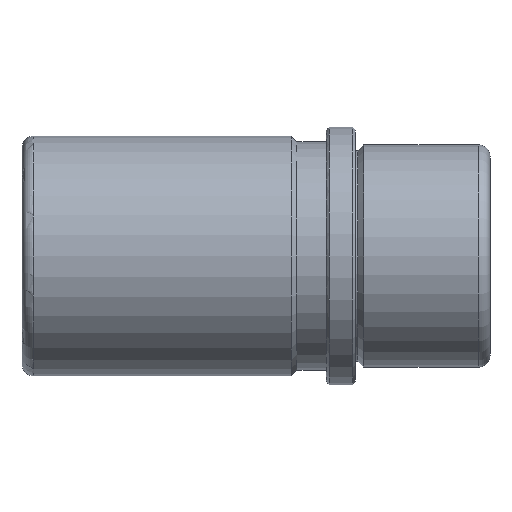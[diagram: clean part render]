
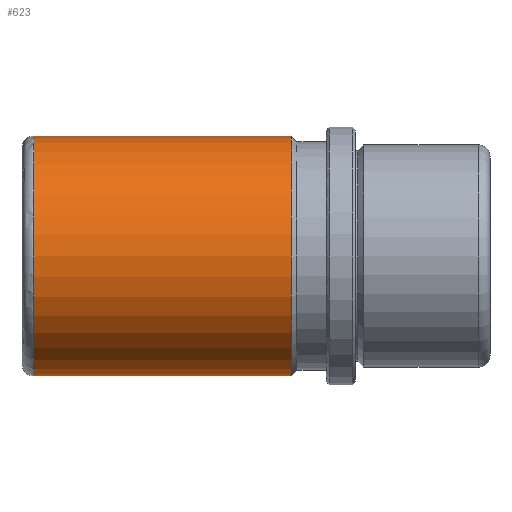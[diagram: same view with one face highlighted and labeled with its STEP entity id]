
A CAD part, front view. The second image highlights one B-rep face of the part: STEP entity #623.
In plain terms, the highlighted cylindrical face has radius 20.5 mm (diameter 41 mm), a partial arc.
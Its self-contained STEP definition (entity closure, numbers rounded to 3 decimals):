
#398=CARTESIAN_POINT('Line Origine',(23.,0.,20.5)) ;
#402=CARTESIAN_POINT('Vertex',(-11.,0.,20.5)) ;
#404=CARTESIAN_POINT('Vertex',(-55.,0.,20.5)) ;
#418=CARTESIAN_POINT('Vertex',(-11.,0.,-20.5)) ;
#421=CARTESIAN_POINT('Line Origine',(23.,0.,-20.5)) ;
#425=CARTESIAN_POINT('Vertex',(-55.,0.,-20.5)) ;
#586=CARTESIAN_POINT('Axis2P3D Location',(23.,0.,0.)) ;
#591=CARTESIAN_POINT('Axis2P3D Location',(-11.,0.,0.)) ;
#595=CARTESIAN_POINT('Vertex',(-11.,-20.5,0.)) ;
#598=CARTESIAN_POINT('Axis2P3D Location',(-11.,0.,0.)) ;
#603=CARTESIAN_POINT('Axis2P3D Location',(-55.,0.,0.)) ;
#607=CARTESIAN_POINT('Vertex',(-55.,-20.5,0.)) ;
#610=CARTESIAN_POINT('Axis2P3D Location',(-55.,0.,0.)) ;
#399=DIRECTION('Vector Direction',(-1.,0.,0.)) ;
#422=DIRECTION('Vector Direction',(-1.,0.,0.)) ;
#587=DIRECTION('Axis2P3D Direction',(-1.,-0.,-0.)) ;
#588=DIRECTION('Axis2P3D XDirection',(0.,0.,-1.)) ;
#592=DIRECTION('Axis2P3D Direction',(-1.,-0.,-0.)) ;
#599=DIRECTION('Axis2P3D Direction',(-1.,-0.,-0.)) ;
#604=DIRECTION('Axis2P3D Direction',(-1.,-0.,-0.)) ;
#611=DIRECTION('Axis2P3D Direction',(-1.,-0.,-0.)) ;
#589=AXIS2_PLACEMENT_3D('Cylinder Axis2P3D',#586,#587,#588) ;
#593=AXIS2_PLACEMENT_3D('Circle Axis2P3D',#591,#592,$) ;
#600=AXIS2_PLACEMENT_3D('Circle Axis2P3D',#598,#599,$) ;
#605=AXIS2_PLACEMENT_3D('Circle Axis2P3D',#603,#604,$) ;
#612=AXIS2_PLACEMENT_3D('Circle Axis2P3D',#610,#611,$) ;
#616=ORIENTED_EDGE('',*,*,#427,.T.) ;
#617=ORIENTED_EDGE('',*,*,#597,.F.) ;
#618=ORIENTED_EDGE('',*,*,#602,.F.) ;
#619=ORIENTED_EDGE('',*,*,#406,.T.) ;
#620=ORIENTED_EDGE('',*,*,#609,.T.) ;
#621=ORIENTED_EDGE('',*,*,#614,.T.) ;
#400=VECTOR('Line Direction',#399,1.) ;
#423=VECTOR('Line Direction',#422,1.) ;
#623=ADVANCED_FACE('FAMO-SF1-E25 x 80',(#622),#590,.T.) ;
#594=CIRCLE('generated circle',#593,20.5) ;
#601=CIRCLE('generated circle',#600,20.5) ;
#606=CIRCLE('generated circle',#605,20.5) ;
#613=CIRCLE('generated circle',#612,20.5) ;
#590=CYLINDRICAL_SURFACE('generated cylinder',#589,20.5) ;
#406=EDGE_CURVE('',#403,#405,#401,.T.) ;
#427=EDGE_CURVE('',#426,#419,#424,.F.) ;
#597=EDGE_CURVE('',#596,#419,#594,.F.) ;
#602=EDGE_CURVE('',#403,#596,#601,.F.) ;
#609=EDGE_CURVE('',#405,#608,#606,.F.) ;
#614=EDGE_CURVE('',#608,#426,#613,.F.) ;
#615=EDGE_LOOP('',(#616,#617,#618,#619,#620,#621)) ;
#622=FACE_OUTER_BOUND('',#615,.T.) ;
#401=LINE('Line',#398,#400) ;
#424=LINE('Line',#421,#423) ;
#403=VERTEX_POINT('',#402) ;
#405=VERTEX_POINT('',#404) ;
#419=VERTEX_POINT('',#418) ;
#426=VERTEX_POINT('',#425) ;
#596=VERTEX_POINT('',#595) ;
#608=VERTEX_POINT('',#607) ;
